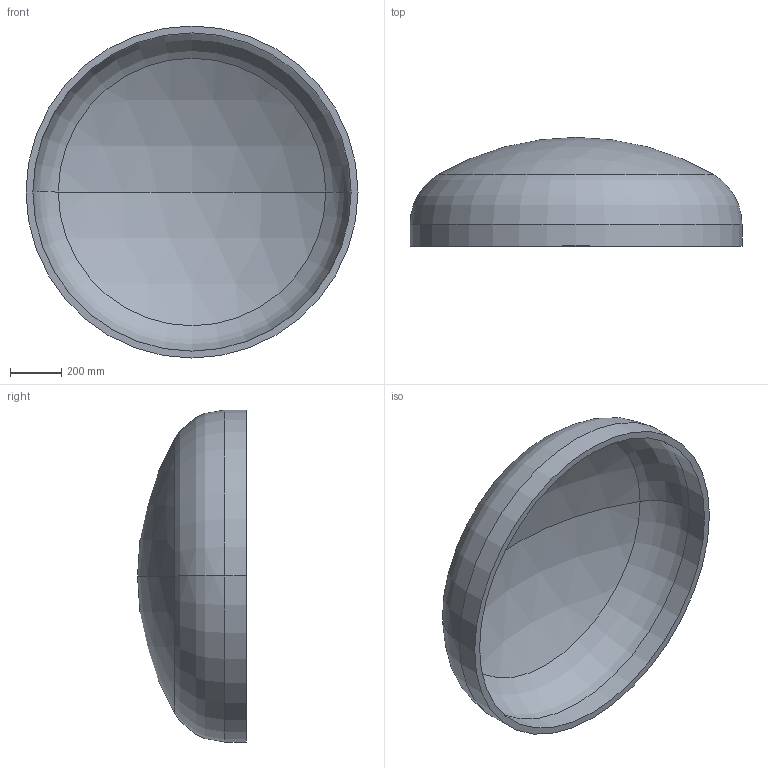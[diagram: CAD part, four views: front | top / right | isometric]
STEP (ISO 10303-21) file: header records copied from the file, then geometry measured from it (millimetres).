
FILE_DESCRIPTION (( 'STEP AP203' ), '1' );
FILE_NAME ('DIN 28013 Korbbogenform_-_Boden DIN 28013 - 1300 x 85 - I - s=27.step', '2016-07-01T09:47:24', ( '' ), ( '' ), 'SwSTEP 2.0', 'SolidWorks 2013', '' );
FILE_SCHEMA (( 'CONFIG_CONTROL_DESIGN' ));
Length unit declared in the file: millimetre
Products named in the file (1): DIN 28013 Korbbogenform_-_Boden DIN 28013 - 1300 x 85 - I - s=27
Bounding box: 1300 x 426.28 x 1300 mm (x, y, z)
Volume: 57465358.5 mm3; surface area: 4366198.4 mm2
Topology: 1 solids, 1 shells, 13 faces, 24 edges, 14 vertices
Faces by surface type: torus 4, cylinder 4, sphere 4, plane 1
Entity records: 407 total; most frequent: DIRECTION 72, CARTESIAN_POINT 52, ORIENTED_EDGE 48, AXIS2_PLACEMENT_3D 34, EDGE_CURVE 24, CIRCLE 20, VERTEX_POINT 14, EDGE_LOOP 14
